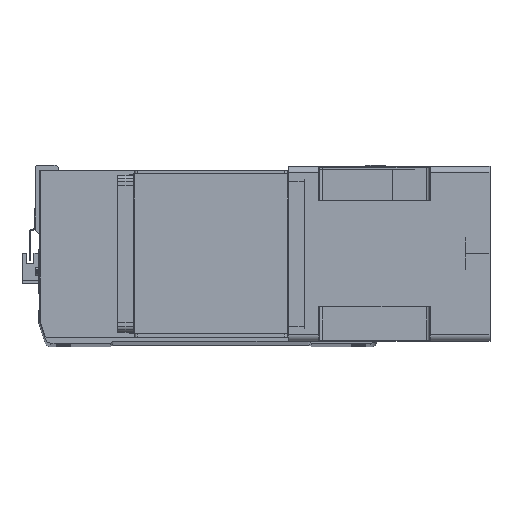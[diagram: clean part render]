
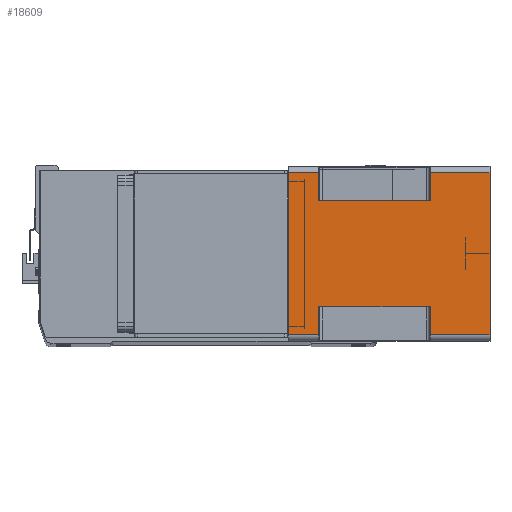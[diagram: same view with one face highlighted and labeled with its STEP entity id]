
A CAD part, top view. The second image highlights one B-rep face of the part: STEP entity #18609.
In plain terms, the highlighted planar face has unit normal (0, 0, 1) as drawn and (1, 0, 0) by its records, which use the part's own axes.
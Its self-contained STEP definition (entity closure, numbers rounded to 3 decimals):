
#393 = VERTEX_POINT ( 'NONE', #7916 ) ;
#523 = VERTEX_POINT ( 'NONE', #20884 ) ;
#639 = DIRECTION ( 'NONE',  ( 0., 1., 0. ) ) ;
#1223 = ORIENTED_EDGE ( 'NONE', *, *, #13437, .F. ) ;
#1242 = EDGE_CURVE ( 'NONE', #2742, #523, #18220, .T. ) ;
#1376 = EDGE_CURVE ( 'NONE', #4273, #4565, #14820, .T. ) ;
#1453 = ORIENTED_EDGE ( 'NONE', *, *, #28552, .F. ) ;
#2115 = CARTESIAN_POINT ( 'NONE',  ( 71., 66., -164. ) ) ;
#2648 = CARTESIAN_POINT ( 'NONE',  ( 71., -66., -115.5 ) ) ;
#2673 = VECTOR ( 'NONE', #27554, 1000. ) ;
#2742 = VERTEX_POINT ( 'NONE', #7274 ) ;
#2770 = ORIENTED_EDGE ( 'NONE', *, *, #6049, .T. ) ;
#2905 = DIRECTION ( 'NONE',  ( 1., 0., 0. ) ) ;
#3238 = ORIENTED_EDGE ( 'NONE', *, *, #18452, .T. ) ;
#3394 = DIRECTION ( 'NONE',  ( 0., 0., 1. ) ) ;
#3826 = ORIENTED_EDGE ( 'NONE', *, *, #14507, .F. ) ;
#4273 = VERTEX_POINT ( 'NONE', #16704 ) ;
#4312 = VECTOR ( 'NONE', #19277, 1000. ) ;
#4565 = VERTEX_POINT ( 'NONE', #11282 ) ;
#4691 = VECTOR ( 'NONE', #29003, 1000. ) ;
#4845 = VECTOR ( 'NONE', #639, 1000. ) ;
#5781 = CARTESIAN_POINT ( 'NONE',  ( 71., -66., -115.5 ) ) ;
#5819 = ORIENTED_EDGE ( 'NONE', *, *, #13732, .F. ) ;
#6049 = EDGE_CURVE ( 'NONE', #15898, #4273, #28571, .T. ) ;
#6366 = LINE ( 'NONE', #10002, #4845 ) ;
#7274 = CARTESIAN_POINT ( 'NONE',  ( 71., 43., -24.5 ) ) ;
#7526 = CARTESIAN_POINT ( 'NONE',  ( 71., -43., -24.5 ) ) ;
#7832 = ORIENTED_EDGE ( 'NONE', *, *, #1376, .T. ) ;
#7916 = CARTESIAN_POINT ( 'NONE',  ( 71., -66., 0. ) ) ;
#8453 = LINE ( 'NONE', #13439, #21772 ) ;
#9021 = VERTEX_POINT ( 'NONE', #19269 ) ;
#9374 = CARTESIAN_POINT ( 'NONE',  ( 71., -43., -164. ) ) ;
#10002 = CARTESIAN_POINT ( 'NONE',  ( 71., -66., 0. ) ) ;
#10734 = CARTESIAN_POINT ( 'NONE',  ( 71., 66., -164. ) ) ;
#10806 = LINE ( 'NONE', #30944, #4312 ) ;
#10834 = EDGE_LOOP ( 'NONE', ( #1223, #25295, #24992, #3238, #2770, #7832, #1453, #24104, #12323, #3826, #5819, #17344 ) ) ;
#11282 = CARTESIAN_POINT ( 'NONE',  ( 71., 43., -115.5 ) ) ;
#11978 = LINE ( 'NONE', #2648, #4691 ) ;
#12134 = DIRECTION ( 'NONE',  ( 0., 1., 0. ) ) ;
#12323 = ORIENTED_EDGE ( 'NONE', *, *, #13766, .T. ) ;
#12574 = CARTESIAN_POINT ( 'NONE',  ( 71., -66., -164. ) ) ;
#12774 = DIRECTION ( 'NONE',  ( 0., 1., 0. ) ) ;
#13392 = VECTOR ( 'NONE', #12134, 1000. ) ;
#13437 = EDGE_CURVE ( 'NONE', #9021, #20287, #22970, .T. ) ;
#13439 = CARTESIAN_POINT ( 'NONE',  ( 71., 43., -164. ) ) ;
#13721 = CARTESIAN_POINT ( 'NONE',  ( 71., 43., -115.5 ) ) ;
#13732 = EDGE_CURVE ( 'NONE', #14192, #393, #30198, .T. ) ;
#13766 = EDGE_CURVE ( 'NONE', #523, #14685, #10806, .T. ) ;
#14187 = CARTESIAN_POINT ( 'NONE',  ( 71., -66., -164. ) ) ;
#14192 = VERTEX_POINT ( 'NONE', #27768 ) ;
#14205 = LINE ( 'NONE', #19139, #16075 ) ;
#14507 = EDGE_CURVE ( 'NONE', #393, #14685, #6366, .T. ) ;
#14685 = VERTEX_POINT ( 'NONE', #15998 ) ;
#14820 = LINE ( 'NONE', #13721, #19392 ) ;
#15897 = LINE ( 'NONE', #31281, #21247 ) ;
#15898 = VERTEX_POINT ( 'NONE', #2115 ) ;
#15943 = EDGE_CURVE ( 'NONE', #9021, #21071, #11978, .T. ) ;
#15998 = CARTESIAN_POINT ( 'NONE',  ( 71., 66., 0. ) ) ;
#16075 = VECTOR ( 'NONE', #23702, 1000. ) ;
#16497 = VERTEX_POINT ( 'NONE', #14187 ) ;
#16704 = CARTESIAN_POINT ( 'NONE',  ( 71., 66., -115.5 ) ) ;
#17344 = ORIENTED_EDGE ( 'NONE', *, *, #31422, .T. ) ;
#18220 = LINE ( 'NONE', #22632, #2673 ) ;
#18452 = EDGE_CURVE ( 'NONE', #16497, #15898, #15897, .T. ) ;
#18609 = ADVANCED_FACE ( 'NONE', ( #31497 ), #24591, .T. ) ;
#19139 = CARTESIAN_POINT ( 'NONE',  ( 71., -66., -164. ) ) ;
#19259 = CARTESIAN_POINT ( 'NONE',  ( 71., -43., -24.5 ) ) ;
#19269 = CARTESIAN_POINT ( 'NONE',  ( 71., -43., -115.5 ) ) ;
#19277 = DIRECTION ( 'NONE',  ( 0., 0., 1. ) ) ;
#19392 = VECTOR ( 'NONE', #23804, 1000. ) ;
#20287 = VERTEX_POINT ( 'NONE', #7526 ) ;
#20884 = CARTESIAN_POINT ( 'NONE',  ( 71., 66., -24.5 ) ) ;
#21071 = VERTEX_POINT ( 'NONE', #5781 ) ;
#21247 = VECTOR ( 'NONE', #28961, 1000. ) ;
#21772 = VECTOR ( 'NONE', #30463, 1000. ) ;
#22088 = VECTOR ( 'NONE', #30382, 1000. ) ;
#22540 = AXIS2_PLACEMENT_3D ( 'NONE', #12574, #2905, #12774 ) ;
#22632 = CARTESIAN_POINT ( 'NONE',  ( 71., -66., -24.5 ) ) ;
#22901 = LINE ( 'NONE', #19259, #13392 ) ;
#22970 = LINE ( 'NONE', #9374, #30588 ) ;
#23702 = DIRECTION ( 'NONE',  ( 0., 0., 1. ) ) ;
#23721 = VECTOR ( 'NONE', #29266, 1000. ) ;
#23804 = DIRECTION ( 'NONE',  ( 0., -1., 0. ) ) ;
#24104 = ORIENTED_EDGE ( 'NONE', *, *, #1242, .T. ) ;
#24367 = CARTESIAN_POINT ( 'NONE',  ( 71., -66., -164. ) ) ;
#24591 = PLANE ( 'NONE',  #22540 ) ;
#24992 = ORIENTED_EDGE ( 'NONE', *, *, #31265, .F. ) ;
#25295 = ORIENTED_EDGE ( 'NONE', *, *, #15943, .T. ) ;
#27554 = DIRECTION ( 'NONE',  ( 0., 1., 0. ) ) ;
#27768 = CARTESIAN_POINT ( 'NONE',  ( 71., -66., -24.5 ) ) ;
#28552 = EDGE_CURVE ( 'NONE', #2742, #4565, #8453, .T. ) ;
#28571 = LINE ( 'NONE', #10734, #22088 ) ;
#28961 = DIRECTION ( 'NONE',  ( 0., 1., 0. ) ) ;
#29003 = DIRECTION ( 'NONE',  ( 0., -1., 0. ) ) ;
#29266 = DIRECTION ( 'NONE',  ( 0., 0., 1. ) ) ;
#30198 = LINE ( 'NONE', #24367, #23721 ) ;
#30382 = DIRECTION ( 'NONE',  ( 0., 0., 1. ) ) ;
#30463 = DIRECTION ( 'NONE',  ( 0., 0., -1. ) ) ;
#30588 = VECTOR ( 'NONE', #3394, 1000. ) ;
#30944 = CARTESIAN_POINT ( 'NONE',  ( 71., 66., -164. ) ) ;
#31265 = EDGE_CURVE ( 'NONE', #16497, #21071, #14205, .T. ) ;
#31281 = CARTESIAN_POINT ( 'NONE',  ( 71., -66., -164. ) ) ;
#31422 = EDGE_CURVE ( 'NONE', #14192, #20287, #22901, .T. ) ;
#31497 = FACE_OUTER_BOUND ( 'NONE', #10834, .T. ) ;
